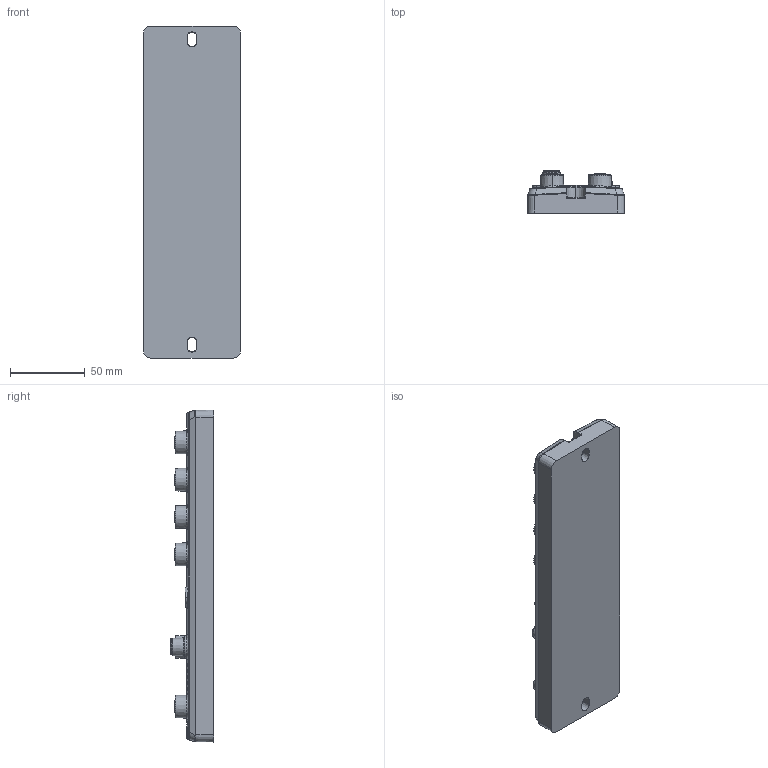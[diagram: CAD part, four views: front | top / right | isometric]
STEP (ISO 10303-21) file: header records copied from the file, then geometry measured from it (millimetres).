
FILE_DESCRIPTION((''),'2;1');
FILE_NAME('007B11','2023-03-08T',('PC'),(''),'PRO/ENGINEER BY PARAMETRIC TECHNOLOGY CORPORATION, 2009220','PRO/ENGINEER BY PARAMETRIC TECHNOLOGY CORPORATION, 2009220','');
FILE_SCHEMA(('CONFIG_CONTROL_DESIGN'));
Products named in the file (1): 007B11
Bounding box: 65 x 29 x 222.4 mm (x, y, z)
Volume: 253985.3 mm3; surface area: 59816.1 mm2
Topology: 1 solids, 10 shells, 3105 faces, 8140 edges, 5278 vertices
Faces by surface type: plane 1533, cylinder 804, cone 428, revolution 102, extrusion 90, torus 76, bspline 56, sphere 16
Entity records: 113380 total; most frequent: CARTESIAN_POINT 37005, ORIENTED_EDGE 16244, DIRECTION 15159, EDGE_CURVE 8122, VERTEX_POINT 5278, AXIS2_PLACEMENT_3D 5073, VECTOR 4911, LINE 4821
